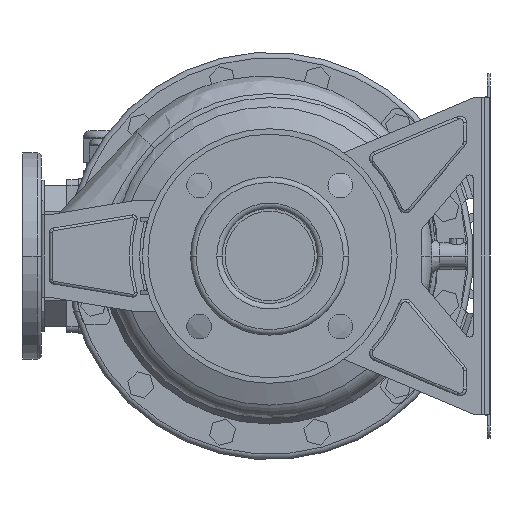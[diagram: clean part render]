
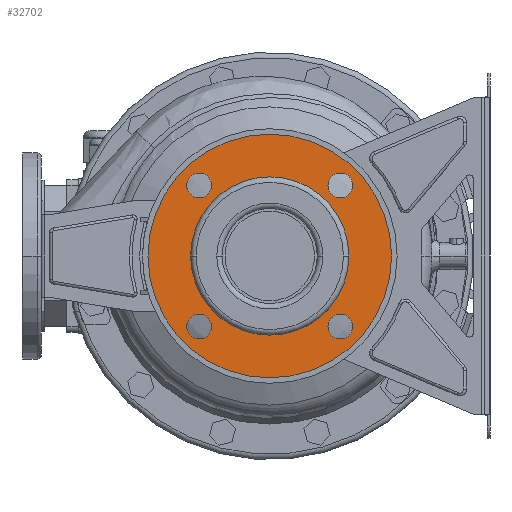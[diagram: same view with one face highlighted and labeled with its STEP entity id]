
A CAD part, left-side view. The second image highlights one B-rep face of the part: STEP entity #32702.
In plain terms, the highlighted planar face has unit normal (-1, 0, 0).
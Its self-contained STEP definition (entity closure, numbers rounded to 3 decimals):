
#32035=CARTESIAN_POINT('',(12.,0.,0.));
#32036=DIRECTION('',(-1.,0.,0.));
#32037=DIRECTION('',(0.,1.,0.));
#32038=AXIS2_PLACEMENT_3D('',#32035,#32036,#32037);
#32043=CARTESIAN_POINT('',(12.,0.,0.));
#32044=DIRECTION('',(1.,0.,0.));
#32045=DIRECTION('',(0.,1.,0.));
#32046=AXIS2_PLACEMENT_3D('',#32043,#32044,#32045);
#32051=CARTESIAN_POINT('',(12.,-51.265,51.265));
#32052=DIRECTION('',(1.,0.,0.));
#32053=DIRECTION('',(0.,1.,0.));
#32054=AXIS2_PLACEMENT_3D('',#32051,#32052,#32053);
#32059=CARTESIAN_POINT('',(12.,-51.265,51.265));
#32060=DIRECTION('',(1.,0.,0.));
#32061=DIRECTION('',(0.,-1.,0.));
#32062=AXIS2_PLACEMENT_3D('',#32059,#32060,#32061);
#32067=CARTESIAN_POINT('',(12.,-51.265,-51.265));
#32068=DIRECTION('',(1.,0.,0.));
#32069=DIRECTION('',(0.,0.,1.));
#32070=AXIS2_PLACEMENT_3D('',#32067,#32068,#32069);
#32075=CARTESIAN_POINT('',(12.,-51.265,-51.265));
#32076=DIRECTION('',(1.,0.,0.));
#32077=DIRECTION('',(0.,0.,-1.));
#32078=AXIS2_PLACEMENT_3D('',#32075,#32076,#32077);
#32083=CARTESIAN_POINT('',(12.,51.265,-51.265));
#32084=DIRECTION('',(1.,0.,0.));
#32085=DIRECTION('',(0.,-1.,0.));
#32086=AXIS2_PLACEMENT_3D('',#32083,#32084,#32085);
#32091=CARTESIAN_POINT('',(12.,51.265,-51.265));
#32092=DIRECTION('',(1.,0.,0.));
#32093=DIRECTION('',(0.,1.,0.));
#32094=AXIS2_PLACEMENT_3D('',#32091,#32092,#32093);
#32099=CARTESIAN_POINT('',(12.,51.265,51.265));
#32100=DIRECTION('',(1.,0.,0.));
#32101=DIRECTION('',(0.,0.,-1.));
#32102=AXIS2_PLACEMENT_3D('',#32099,#32100,#32101);
#32107=CARTESIAN_POINT('',(12.,51.265,51.265));
#32108=DIRECTION('',(1.,0.,0.));
#32109=DIRECTION('',(0.,0.,1.));
#32110=AXIS2_PLACEMENT_3D('',#32107,#32108,#32109);
#32115=CARTESIAN_POINT('',(12.,0.,0.));
#32116=DIRECTION('',(1.,0.,0.));
#32117=DIRECTION('',(0.,1.,0.));
#32118=AXIS2_PLACEMENT_3D('',#32115,#32116,#32117);
#32137=CARTESIAN_POINT('',(12.,0.,0.));
#32138=DIRECTION('',(-1.,0.,0.));
#32139=DIRECTION('',(0.,1.,0.));
#32140=AXIS2_PLACEMENT_3D('',#32137,#32138,#32139);
#32302=CARTESIAN_POINT('',(12.,88.5,0.));
#32304=VERTEX_POINT('',#32302);
#32305=CARTESIAN_POINT('',(12.,57.5,0.));
#32307=VERTEX_POINT('',#32305);
#32334=CARTESIAN_POINT('',(12.,-88.5,0.));
#32336=VERTEX_POINT('',#32334);
#32337=CARTESIAN_POINT('',(12.,-57.5,0.));
#32339=VERTEX_POINT('',#32337);
#32349=CARTESIAN_POINT('',(12.,-42.265,51.265));
#32350=CARTESIAN_POINT('',(12.,-60.265,51.265));
#32351=VERTEX_POINT('',#32349);
#32352=VERTEX_POINT('',#32350);
#32357=CARTESIAN_POINT('',(12.,-51.265,-42.265));
#32358=CARTESIAN_POINT('',(12.,-51.265,-60.265));
#32359=VERTEX_POINT('',#32357);
#32360=VERTEX_POINT('',#32358);
#32365=CARTESIAN_POINT('',(12.,42.265,-51.265));
#32366=CARTESIAN_POINT('',(12.,60.265,-51.265));
#32367=VERTEX_POINT('',#32365);
#32368=VERTEX_POINT('',#32366);
#32373=CARTESIAN_POINT('',(12.,51.265,42.265));
#32374=CARTESIAN_POINT('',(12.,51.265,60.265));
#32375=VERTEX_POINT('',#32373);
#32376=VERTEX_POINT('',#32374);
#32663=CARTESIAN_POINT('',(12.,0.,0.));
#32664=DIRECTION('',(1.,0.,0.));
#32665=DIRECTION('',(0.,-1.,0.));
#32666=AXIS2_PLACEMENT_3D('',#32663,#32664,#32665);
#32667=PLANE('',#32666);
#32668=ORIENTED_EDGE('',*,*,#32656,.F.);
#32669=ORIENTED_EDGE('',*,*,#32645,.T.);
#32670=EDGE_LOOP('',(#32668,#32669));
#32671=FACE_OUTER_BOUND('',#32670,.F.);
#32673=ORIENTED_EDGE('',*,*,#32672,.F.);
#32675=ORIENTED_EDGE('',*,*,#32674,.T.);
#32676=EDGE_LOOP('',(#32673,#32675));
#32677=FACE_BOUND('',#32676,.F.);
#32679=ORIENTED_EDGE('',*,*,#32678,.F.);
#32681=ORIENTED_EDGE('',*,*,#32680,.F.);
#32682=EDGE_LOOP('',(#32679,#32681));
#32683=FACE_BOUND('',#32682,.F.);
#32685=ORIENTED_EDGE('',*,*,#32684,.F.);
#32687=ORIENTED_EDGE('',*,*,#32686,.F.);
#32688=EDGE_LOOP('',(#32685,#32687));
#32689=FACE_BOUND('',#32688,.F.);
#32691=ORIENTED_EDGE('',*,*,#32690,.F.);
#32693=ORIENTED_EDGE('',*,*,#32692,.F.);
#32694=EDGE_LOOP('',(#32691,#32693));
#32695=FACE_BOUND('',#32694,.F.);
#32697=ORIENTED_EDGE('',*,*,#32696,.F.);
#32699=ORIENTED_EDGE('',*,*,#32698,.F.);
#32700=EDGE_LOOP('',(#32697,#32699));
#32701=FACE_BOUND('',#32700,.F.);
#32039=CIRCLE('',#32038,88.5);
#32047=CIRCLE('',#32046,88.5);
#32055=CIRCLE('',#32054,9.);
#32063=CIRCLE('',#32062,9.);
#32071=CIRCLE('',#32070,9.);
#32079=CIRCLE('',#32078,9.);
#32087=CIRCLE('',#32086,9.);
#32095=CIRCLE('',#32094,9.);
#32103=CIRCLE('',#32102,9.);
#32111=CIRCLE('',#32110,9.);
#32119=CIRCLE('',#32118,57.5);
#32141=CIRCLE('',#32140,57.5);
#32645=EDGE_CURVE('',#32304,#32336,#32047,.T.);
#32656=EDGE_CURVE('',#32304,#32336,#32039,.T.);
#32672=EDGE_CURVE('',#32307,#32339,#32119,.T.);
#32674=EDGE_CURVE('',#32307,#32339,#32141,.T.);
#32678=EDGE_CURVE('',#32351,#32352,#32055,.T.);
#32680=EDGE_CURVE('',#32352,#32351,#32063,.T.);
#32684=EDGE_CURVE('',#32359,#32360,#32071,.T.);
#32686=EDGE_CURVE('',#32360,#32359,#32079,.T.);
#32690=EDGE_CURVE('',#32367,#32368,#32087,.T.);
#32692=EDGE_CURVE('',#32368,#32367,#32095,.T.);
#32696=EDGE_CURVE('',#32375,#32376,#32103,.T.);
#32698=EDGE_CURVE('',#32376,#32375,#32111,.T.);
#32702=ADVANCED_FACE('',(#32671,#32677,#32683,#32689,#32695,#32701),#32667,.F.);
